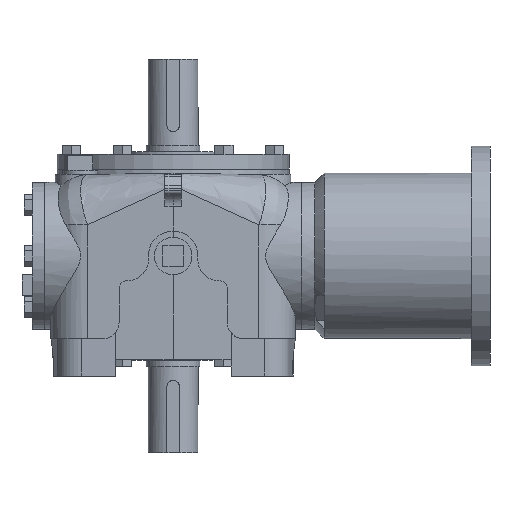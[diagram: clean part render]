
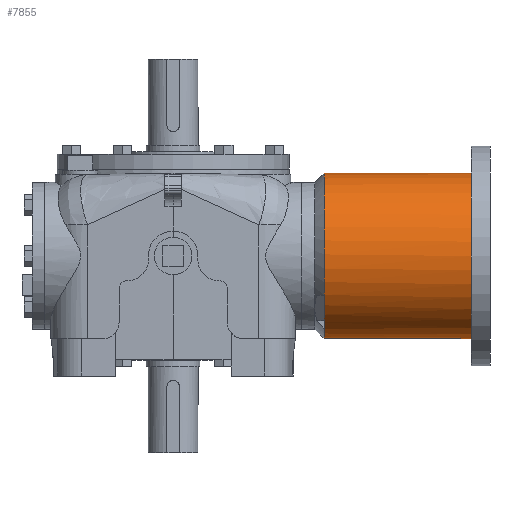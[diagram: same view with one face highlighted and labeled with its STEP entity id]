
A CAD part, front view. The second image highlights one B-rep face of the part: STEP entity #7855.
In plain terms, the highlighted cylindrical face has radius 63.5 mm (diameter 127 mm), a full revolution.
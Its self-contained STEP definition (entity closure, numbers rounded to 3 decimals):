
#195=CYLINDRICAL_SURFACE('',#9653,63.5);
#727=LINE('',#16320,#1396);
#728=LINE('',#16333,#1397);
#1396=VECTOR('',#11392,1000.);
#1397=VECTOR('',#11393,1000.);
#1785=B_SPLINE_CURVE_WITH_KNOTS('',3,(#16322,#16323,#16324,#16325,#16326,
#16327,#16328,#16329,#16330,#16331),.UNSPECIFIED.,.F.,.F.,(4,1,1,1,1,1,
1,4),(0.,0.002,0.005,0.007,0.01,
0.012,0.015,0.02),.UNSPECIFIED.);
#3552=ORIENTED_EDGE('',*,*,#4855,.F.);
#3553=ORIENTED_EDGE('',*,*,#4856,.F.);
#3554=ORIENTED_EDGE('',*,*,#4857,.F.);
#3555=ORIENTED_EDGE('',*,*,#4741,.T.);
#3556=ORIENTED_EDGE('',*,*,#4858,.T.);
#3557=ORIENTED_EDGE('',*,*,#4735,.T.);
#3558=ORIENTED_EDGE('',*,*,#4854,.F.);
#4735=EDGE_CURVE('',#5583,#5584,#5930,.T.);
#4741=EDGE_CURVE('',#5589,#5588,#5932,.T.);
#4854=EDGE_CURVE('',#5671,#5671,#5952,.T.);
#4855=EDGE_CURVE('',#5672,#5584,#727,.F.);
#4856=EDGE_CURVE('',#5673,#5672,#1785,.T.);
#4857=EDGE_CURVE('',#5589,#5673,#728,.T.);
#4858=EDGE_CURVE('',#5588,#5583,#5953,.T.);
#5583=VERTEX_POINT('',#16041);
#5584=VERTEX_POINT('',#16042);
#5588=VERTEX_POINT('',#16064);
#5589=VERTEX_POINT('',#16066);
#5671=VERTEX_POINT('',#16318);
#5672=VERTEX_POINT('',#16321);
#5673=VERTEX_POINT('',#16332);
#5930=CIRCLE('',#9582,63.5);
#5932=CIRCLE('',#9584,63.5);
#5952=CIRCLE('',#9652,63.5);
#5953=CIRCLE('',#9654,63.5);
#6447=EDGE_LOOP('',(#3552,#3553,#3554,#3555,#3556,#3557));
#6448=EDGE_LOOP('',(#3558));
#7051=FACE_BOUND('',#6447,.T.);
#7052=FACE_BOUND('',#6448,.T.);
#7855=ADVANCED_FACE('',(#7051,#7052),#195,.T.);
#9582=AXIS2_PLACEMENT_3D('',#16040,#11158,#11159);
#9584=AXIS2_PLACEMENT_3D('',#16065,#11162,#11163);
#9652=AXIS2_PLACEMENT_3D('',#16317,#11388,#11389);
#9653=AXIS2_PLACEMENT_3D('',#16319,#11390,#11391);
#9654=AXIS2_PLACEMENT_3D('',#16334,#11394,#11395);
#11158=DIRECTION('',(1.,0.,0.));
#11159=DIRECTION('',(0.,0.,-1.));
#11162=DIRECTION('',(1.,0.,0.));
#11163=DIRECTION('',(0.,0.,-1.));
#11388=DIRECTION('',(1.,0.,0.));
#11389=DIRECTION('',(0.,0.,-1.));
#11390=DIRECTION('',(1.,0.,0.));
#11391=DIRECTION('',(0.,0.,-1.));
#11392=DIRECTION('',(1.,0.,0.));
#11393=DIRECTION('',(1.,0.,0.));
#11394=DIRECTION('',(1.,0.,0.));
#11395=DIRECTION('',(0.,0.,-1.));
#16040=CARTESIAN_POINT('',(17.241,0.,0.));
#16041=CARTESIAN_POINT('',(17.241,-29.972,-55.982));
#16042=CARTESIAN_POINT('',(17.241,-6.35,-63.182));
#16064=CARTESIAN_POINT('',(17.241,-55.982,-29.972));
#16065=CARTESIAN_POINT('',(17.241,0.,0.));
#16066=CARTESIAN_POINT('',(17.241,6.35,-63.182));
#16317=CARTESIAN_POINT('',(130.239,0.,0.));
#16318=CARTESIAN_POINT('',(130.239,0.,-63.5));
#16319=CARTESIAN_POINT('',(98.425,0.,0.));
#16320=CARTESIAN_POINT('',(98.425,-6.35,-63.182));
#16321=CARTESIAN_POINT('',(116.777,-6.35,-63.182));
#16322=CARTESIAN_POINT('',(116.777,6.35,-63.182));
#16323=CARTESIAN_POINT('',(117.616,6.35,-63.182));
#16324=CARTESIAN_POINT('',(119.269,6.018,-63.216));
#16325=CARTESIAN_POINT('',(121.384,4.606,-63.341));
#16326=CARTESIAN_POINT('',(122.794,2.497,-63.466));
#16327=CARTESIAN_POINT('',(123.292,0.005,-63.517));
#16328=CARTESIAN_POINT('',(122.798,-2.488,-63.466));
#16329=CARTESIAN_POINT('',(120.916,-5.314,-63.298));
#16330=CARTESIAN_POINT('',(118.455,-6.35,-63.182));
#16331=CARTESIAN_POINT('',(116.777,-6.35,-63.182));
#16332=CARTESIAN_POINT('',(116.777,6.35,-63.182));
#16333=CARTESIAN_POINT('',(98.425,6.35,-63.182));
#16334=CARTESIAN_POINT('',(17.241,0.,0.));
